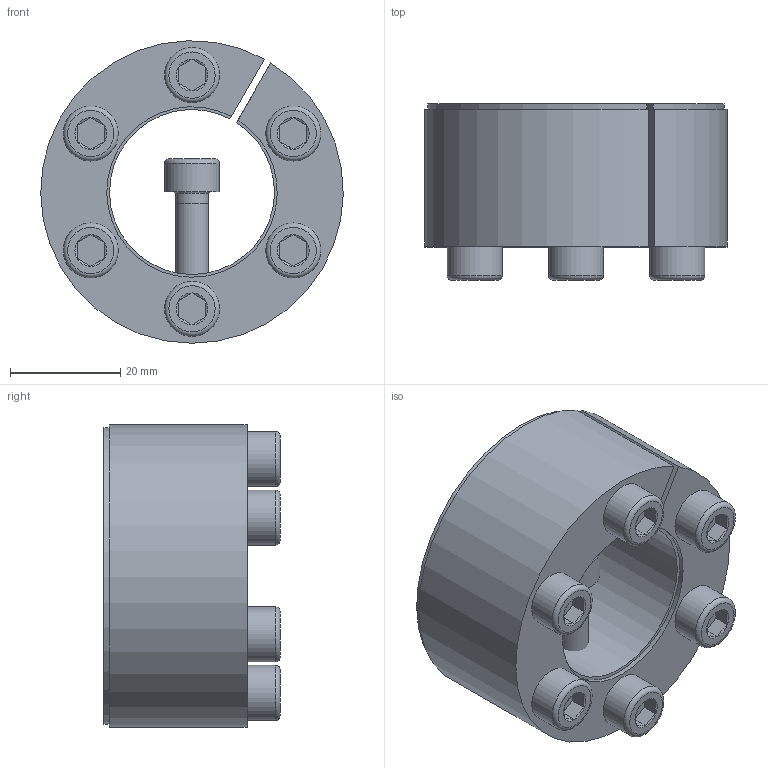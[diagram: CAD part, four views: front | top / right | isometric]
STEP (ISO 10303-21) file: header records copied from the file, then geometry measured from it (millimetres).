
FILE_DESCRIPTION( ( 'Unknown' ), '1' );
FILE_NAME( 'C:/Dokumente und Einstellungen/Sven/Desktop/homepage/cad - homepage/KBS61/KBS 61 - 30 x 55.stp', 'Unknown', ( 'Unknown' ), ( 'Unknown' ), 'XStep 1.0', 'Unknown', ' ' );
FILE_SCHEMA( ( 'automotive_design' ) );
Length unit declared in the file: millimetre
Products named in the file (3): Assem1; KBS 61 - 30 x 55; ISO EN DIN 4762 M6x25
Bounding box: 55 x 32 x 54.99 mm (x, y, z)
Volume: 84519.3 mm3; surface area: 32977.2 mm2
Topology: 9 solids, 9 shells, 207 faces, 397 edges, 236 vertices
Faces by surface type: plane 96, cone 53, cylinder 44, torus 14
Full cylindrical faces by diameter (mm): 5 x7, 6 x26, 10 x7
Entity records: 1282 total; most frequent: CARTESIAN_POINT 229, DIRECTION 196, ORIENTED_EDGE 142, AXIS2_PLACEMENT_3D 86, EDGE_CURVE 71, EDGE_LOOP 70, FACE_OUTER_BOUND 53, VERTEX_POINT 51
